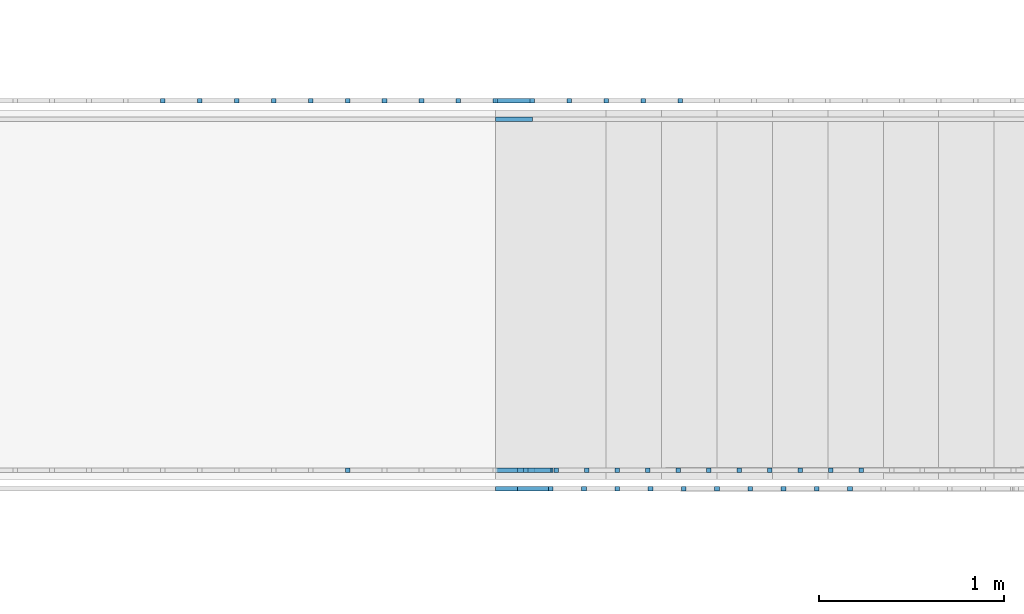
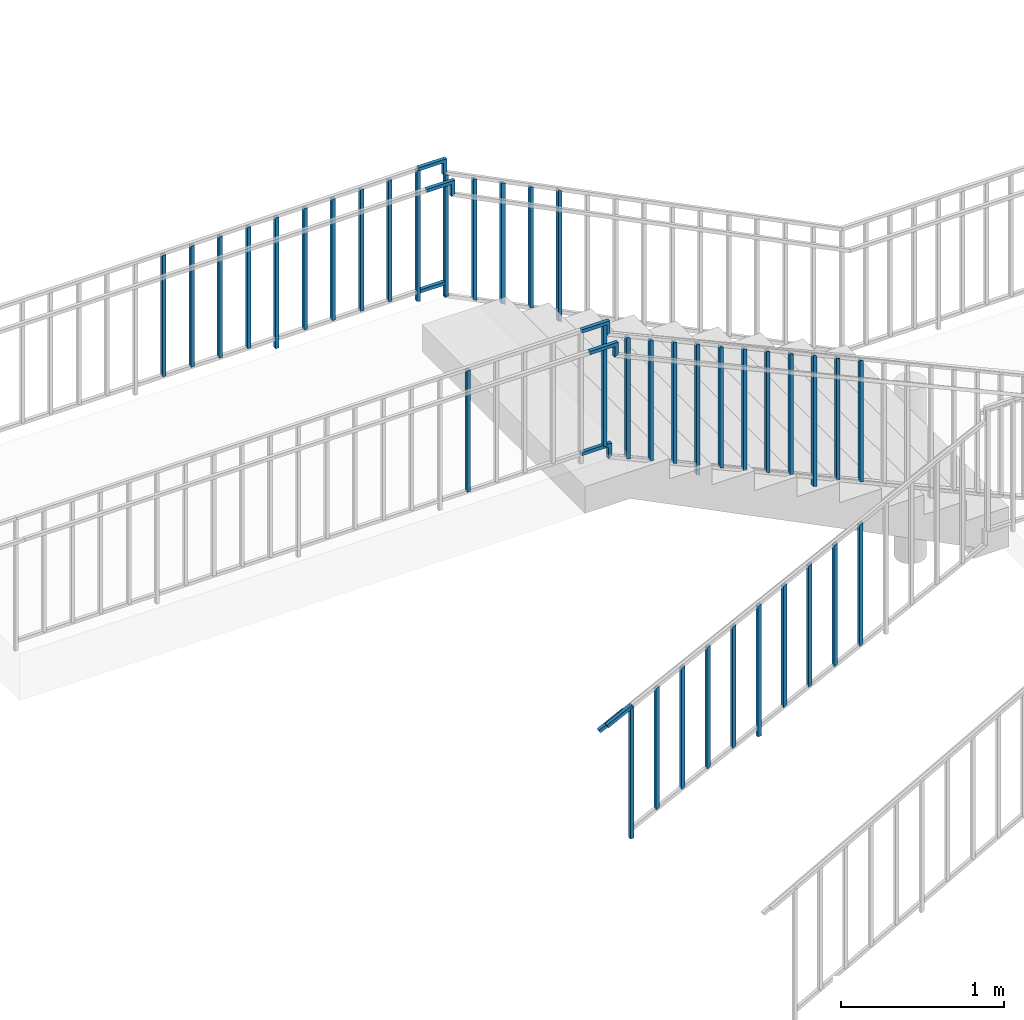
# One storey, part 17 of 19: 46 building element parts, 2 elements without a shape of their own.
"""IFC4 building model written with IfcOpenShell, lengths in millimetres."""

from ifc_helpers import new_model, entity, si_unit, converted_unit, derived_unit, direction, frame, origin_with_axes, place, context, subcontext, project, spatial, triangles, material, element, aggregate, save


model = new_model("IFC4")

# Units and contexts
model_context = context("Model", 3, precision=1e-05, world=origin_with_axes(), true_north=direction((0.0, 1.0)))
body_context = subcontext(model_context, "Body", "Model", "MODEL_VIEW")
ifc_project = project(units=[si_unit("LENGTHUNIT", "METRE", prefix="MILLI"), si_unit("AREAUNIT", "SQUARE_METRE"), si_unit("VOLUMEUNIT", "CUBIC_METRE"), converted_unit("PLANEANGLEUNIT", "DEGREE", entity("IfcLengthMeasure", 0.017453), si_unit("PLANEANGLEUNIT", "RADIAN"), dimensions=[0, 0, 0, 0, 0, 0, 0]), si_unit("SOLIDANGLEUNIT", "STERADIAN"), si_unit("MASSUNIT", "GRAM"), si_unit("TIMEUNIT", "SECOND"), si_unit("THERMODYNAMICTEMPERATUREUNIT", "DEGREE_CELSIUS"), si_unit("LUMINOUSINTENSITYUNIT", "LUMEN"), si_unit("POWERUNIT", "WATT"), derived_unit("THERMALTRANSMITTANCEUNIT", [(si_unit("POWERUNIT", "WATT"), 1), (si_unit("THERMODYNAMICTEMPERATUREUNIT", "KELVIN"), -1), (si_unit("AREAUNIT", "SQUARE_METRE"), -1)])], contexts=[model_context])

# Site, building, storey
site_placement = place(None, origin_with_axes())
site = spatial("IfcSite", under=ifc_project, at=site_placement, Name="Default Site", CompositionType="ELEMENT")
building_placement = place(site_placement, origin_with_axes())
building = spatial("IfcBuilding", under=site, at=building_placement, Name="Default Building", CompositionType="ELEMENT")
storey_placement = place(building_placement, frame((0.0, 0.0, 3000.0), z_axis=(0.0, 0.0, 1.0), x_axis=(1.0, 0.0, 0.0)))
storey = spatial("IfcBuildingStorey", under=building, at=storey_placement, Name="EG - Story", CompositionType="ELEMENT", Elevation=3000.0)

# Railing, building element parts
railing_1_placement = place(storey_placement, origin_with_axes())
railing_1 = element("IfcRailing", 1, at=railing_1_placement, inside=storey, Name="Geländer - 001", PredefinedType="NOTDEFINED")
ifc_material = material(Name="Bekleidung")
building_element_part_1_placement = place(railing_1_placement, frame((84051.391327, -29589.262838, -3000.0), z_axis=(0.0, 0.0, 1.0), x_axis=(1.0, 0.0, 0.0)))
building_element_part_1 = element("IfcBuildingElementPart", 2, at=building_element_part_1_placement, material=ifc_material, Name="Bekleidung", PredefinedType="NOTDEFINED", context=body_context, shape_type="Tessellation", body=[
    triangles([(12.5, -62.499, 150.0), (12.5, -37.499, 150.0), (12.5, -37.499, 1136.25), (12.5, -62.499, 1136.25), (-12.499, -62.499, 150.0), (-12.499, -37.499, 150.0), (-12.499, -37.499, 1123.75), (-12.499, -62.499, 1123.75)], [[1, 2, 3], [1, 3, 4], [1, 5, 6], [1, 6, 2], [2, 6, 7], [2, 7, 3], [4, 3, 7], [4, 7, 8], [5, 1, 4], [5, 4, 8], [6, 5, 8], [6, 8, 7]], closed=False),
])
building_element_part_2_placement = place(railing_1_placement, frame((84051.391327, -29589.262838, -3000.0), z_axis=(0.0, 0.0, 1.0), x_axis=(1.0, 0.0, 0.0)))
building_element_part_2 = element("IfcBuildingElementPart", 3, at=building_element_part_2_placement, material=ifc_material, Name="Bekleidung", PredefinedType="NOTDEFINED", context=body_context, shape_type="Tessellation", body=[
    triangles([(0.0, 62.5, 1050.0), (11.18, 62.5, 1027.639), (-167.704, 62.5, 938.197), (-178.884, 62.5, 960.557), (0.0, 37.5, 1050.0), (11.18, 37.5, 1027.639), (-167.704, 37.5, 938.197), (-178.884, 37.5, 960.557)], [[1, 2, 3], [1, 3, 4], [1, 5, 6], [1, 6, 2], [2, 6, 7], [2, 7, 3], [4, 3, 7], [4, 7, 8], [5, 1, 4], [5, 4, 8], [6, 5, 8], [6, 8, 7]], closed=False),
])
building_element_part_3_placement = place(railing_1_placement, frame((84051.391327, -29589.262838, -3000.0), z_axis=(0.0, 0.0, 1.0), x_axis=(1.0, 0.0, 0.0)))
building_element_part_3 = element("IfcBuildingElementPart", 4, at=building_element_part_3_placement, material=ifc_material, Name="Bekleidung", PredefinedType="NOTDEFINED", context=body_context, shape_type="Tessellation", body=[
    triangles([(0.0, -37.499, 1150.0), (11.18, -37.499, 1127.639), (-167.704, -37.499, 1038.197), (-178.884, -37.499, 1060.557), (0.0, -62.499, 1150.0), (11.18, -62.499, 1127.639), (-167.704, -62.499, 1038.197), (-178.884, -62.499, 1060.557)], [[1, 2, 3], [1, 3, 4], [1, 5, 6], [1, 6, 2], [2, 6, 7], [2, 7, 3], [4, 3, 7], [4, 7, 8], [5, 1, 4], [5, 4, 8], [6, 5, 8], [6, 8, 7]], closed=False),
])
building_element_part_4_placement = place(railing_1_placement, frame((84051.391327, -29589.262838, -3000.0), z_axis=(0.0, 0.0, 1.0), x_axis=(1.0, 0.0, 0.0)))
building_element_part_4 = element("IfcBuildingElementPart", 5, at=building_element_part_4_placement, material=ifc_material, Name="Bekleidung", PredefinedType="NOTDEFINED", context=body_context, shape_type="Tessellation", body=[
    triangles([(-124.999, -37.499, 3875.0), (-299.999, -37.499, 3875.0), (-299.999, -37.499, 3900.0), (-99.999, -37.499, 3900.0), (-99.999, -37.499, 3809.091), (-124.999, -37.499, 3792.993), (-99.999, -62.499, 3809.091), (-124.999, -62.499, 3792.993), (-124.999, -62.499, 3875.0), (-299.999, -62.499, 3875.0), (-299.999, -62.499, 3900.0), (-99.999, -62.499, 3900.0)], [[1, 2, 3], [1, 3, 4], [1, 4, 5], [1, 5, 6], [5, 7, 8], [5, 8, 6], [6, 8, 9], [6, 9, 1], [1, 9, 10], [1, 10, 2], [3, 2, 10], [3, 10, 11], [12, 4, 3], [12, 3, 11], [7, 5, 4], [7, 4, 12], [8, 7, 9], [9, 7, 12], [9, 12, 10], [10, 12, 11]], closed=False),
])
building_element_part_5_placement = place(railing_1_placement, frame((84051.391327, -29589.262838, -3000.0), z_axis=(0.0, 0.0, 1.0), x_axis=(1.0, 0.0, 0.0)))
building_element_part_5 = element("IfcBuildingElementPart", 6, at=building_element_part_5_placement, material=ifc_material, Name="Bekleidung", PredefinedType="NOTDEFINED", context=body_context, shape_type="Tessellation", body=[
    triangles([(-112.499, 62.5, 3057.5), (-299.999, 62.5, 3057.5), (-299.999, 62.5, 3082.5), (-87.499, 62.5, 3082.5), (-87.499, 62.5, 2987.14), (-112.499, 62.5, 2971.042), (-87.499, 37.5, 2987.14), (-112.499, 37.5, 2971.042), (-112.499, 37.5, 3057.5), (-299.999, 37.5, 3057.5), (-299.999, 37.5, 3082.5), (-87.499, 37.5, 3082.5)], [[1, 2, 3], [1, 3, 4], [1, 4, 5], [1, 5, 6], [5, 7, 8], [5, 8, 6], [6, 8, 9], [6, 9, 1], [1, 9, 10], [1, 10, 2], [3, 2, 10], [3, 10, 11], [12, 4, 3], [12, 3, 11], [7, 5, 4], [7, 4, 12], [8, 7, 9], [9, 7, 12], [9, 12, 10], [10, 12, 11]], closed=False),
])
building_element_part_6_placement = place(railing_1_placement, frame((84051.391327, -29589.262838, -3000.0), z_axis=(0.0, 0.0, 1.0), x_axis=(1.0, 0.0, 0.0)))
building_element_part_6 = element("IfcBuildingElementPart", 7, at=building_element_part_6_placement, material=ifc_material, Name="Bekleidung", PredefinedType="NOTDEFINED", context=body_context, shape_type="Tessellation", body=[
    triangles([(-124.999, 62.5, 3975.0), (-299.999, 62.5, 3975.0), (-299.999, 62.5, 4000.0), (-99.999, 62.5, 4000.0), (-99.999, 62.5, 3909.091), (-124.999, 62.5, 3892.993), (-99.999, 37.5, 3909.091), (-124.999, 37.5, 3892.993), (-124.999, 37.5, 3975.0), (-299.999, 37.5, 3975.0), (-299.999, 37.5, 4000.0), (-99.999, 37.5, 4000.0)], [[1, 2, 3], [1, 3, 4], [1, 4, 5], [1, 5, 6], [5, 7, 8], [5, 8, 6], [6, 8, 9], [6, 9, 1], [1, 9, 10], [1, 10, 2], [3, 2, 10], [3, 10, 11], [12, 4, 3], [12, 3, 11], [7, 5, 4], [7, 4, 12], [8, 7, 9], [9, 7, 12], [9, 12, 10], [10, 12, 11]], closed=False),
])
building_element_part_7_placement = place(railing_1_placement, frame((84051.391327, -29589.262838, -3000.0), z_axis=(0.0, 0.0, 1.0), x_axis=(1.0, 0.0, 0.0)))
building_element_part_7 = element("IfcBuildingElementPart", 8, at=building_element_part_7_placement, material=ifc_material, Name="Bekleidung", PredefinedType="NOTDEFINED", context=body_context, shape_type="Tessellation", body=[
    triangles([(192.5, -62.499, 316.25), (192.5, -37.499, 316.25), (192.5, -37.499, 1223.75), (192.5, -62.499, 1223.75), (167.5, -62.499, 303.75), (167.5, -37.499, 303.75), (167.5, -37.499, 1211.25), (167.5, -62.499, 1211.25)], [[1, 2, 3], [1, 3, 4], [1, 5, 6], [1, 6, 2], [2, 6, 7], [2, 7, 3], [4, 3, 7], [4, 7, 8], [5, 1, 4], [5, 4, 8], [6, 5, 8], [6, 8, 7]], closed=False),
])
building_element_part_8_placement = place(railing_1_placement, frame((84051.391327, -29589.262838, -3000.0), z_axis=(0.0, 0.0, 1.0), x_axis=(1.0, 0.0, 0.0)))
building_element_part_8 = element("IfcBuildingElementPart", 9, at=building_element_part_8_placement, material=ifc_material, Name="Bekleidung", PredefinedType="NOTDEFINED", context=body_context, shape_type="Tessellation", body=[
    triangles([(372.5, -62.499, 406.25), (372.5, -37.499, 406.25), (372.5, -37.499, 1313.75), (372.5, -62.499, 1313.75), (347.5, -62.499, 393.75), (347.5, -37.499, 393.75), (347.5, -37.499, 1301.25), (347.5, -62.499, 1301.25)], [[1, 2, 3], [1, 3, 4], [1, 5, 6], [1, 6, 2], [2, 6, 7], [2, 7, 3], [4, 3, 7], [4, 7, 8], [5, 1, 4], [5, 4, 8], [6, 5, 8], [6, 8, 7]], closed=False),
])
building_element_part_9_placement = place(railing_1_placement, frame((84051.391327, -29589.262838, -3000.0), z_axis=(0.0, 0.0, 1.0), x_axis=(1.0, 0.0, 0.0)))
building_element_part_9 = element("IfcBuildingElementPart", 10, at=building_element_part_9_placement, material=ifc_material, Name="Bekleidung", PredefinedType="NOTDEFINED", context=body_context, shape_type="Tessellation", body=[
    triangles([(552.5, -62.499, 496.25), (552.5, -37.499, 496.25), (552.5, -37.499, 1403.75), (552.5, -62.499, 1403.75), (527.5, -62.499, 483.75), (527.5, -37.499, 483.75), (527.5, -37.499, 1391.25), (527.5, -62.499, 1391.25)], [[1, 2, 3], [1, 3, 4], [1, 5, 6], [1, 6, 2], [2, 6, 7], [2, 7, 3], [4, 3, 7], [4, 7, 8], [5, 1, 4], [5, 4, 8], [6, 5, 8], [6, 8, 7]], closed=False),
])
building_element_part_10_placement = place(railing_1_placement, frame((84051.391327, -29589.262838, -3000.0), z_axis=(0.0, 0.0, 1.0), x_axis=(1.0, 0.0, 0.0)))
building_element_part_10 = element("IfcBuildingElementPart", 11, at=building_element_part_10_placement, material=ifc_material, Name="Bekleidung", PredefinedType="NOTDEFINED", context=body_context, shape_type="Tessellation", body=[
    triangles([(732.5, -62.499, 586.25), (732.5, -37.499, 586.25), (732.5, -37.499, 1493.75), (732.5, -62.499, 1493.75), (707.5, -62.499, 573.75), (707.5, -37.499, 573.75), (707.5, -37.499, 1481.25), (707.5, -62.499, 1481.25)], [[1, 2, 3], [1, 3, 4], [1, 5, 6], [1, 6, 2], [2, 6, 7], [2, 7, 3], [4, 3, 7], [4, 7, 8], [5, 1, 4], [5, 4, 8], [6, 5, 8], [6, 8, 7]], closed=False),
])
building_element_part_11_placement = place(railing_1_placement, frame((84051.391327, -29589.262838, -3000.0), z_axis=(0.0, 0.0, 1.0), x_axis=(1.0, 0.0, 0.0)))
building_element_part_11 = element("IfcBuildingElementPart", 12, at=building_element_part_11_placement, material=ifc_material, Name="Bekleidung", PredefinedType="NOTDEFINED", context=body_context, shape_type="Tessellation", body=[
    triangles([(912.5, -62.499, 600.0), (912.5, -37.499, 600.0), (912.5, -37.499, 1586.25), (912.5, -62.499, 1586.25), (887.5, -62.499, 600.0), (887.5, -37.499, 600.0), (887.5, -37.499, 1573.75), (887.5, -62.499, 1573.75)], [[1, 2, 3], [1, 3, 4], [1, 5, 6], [1, 6, 2], [2, 6, 7], [2, 7, 3], [4, 3, 7], [4, 7, 8], [5, 1, 4], [5, 4, 8], [6, 5, 8], [6, 8, 7]], closed=False),
])
building_element_part_12_placement = place(railing_1_placement, frame((84051.391327, -29589.262838, -3000.0), z_axis=(0.0, 0.0, 1.0), x_axis=(1.0, 0.0, 0.0)))
building_element_part_12 = element("IfcBuildingElementPart", 13, at=building_element_part_12_placement, material=ifc_material, Name="Bekleidung", PredefinedType="NOTDEFINED", context=body_context, shape_type="Tessellation", body=[
    triangles([(1092.5, -62.499, 766.25), (1092.5, -37.499, 766.25), (1092.5, -37.499, 1673.75), (1092.5, -62.499, 1673.75), (1067.5, -62.499, 753.75), (1067.5, -37.499, 753.75), (1067.5, -37.499, 1661.25), (1067.5, -62.499, 1661.25)], [[1, 2, 3], [1, 3, 4], [1, 5, 6], [1, 6, 2], [2, 6, 7], [2, 7, 3], [4, 3, 7], [4, 7, 8], [5, 1, 4], [5, 4, 8], [6, 5, 8], [6, 8, 7]], closed=False),
])
building_element_part_13_placement = place(railing_1_placement, frame((84051.391327, -29589.262838, -3000.0), z_axis=(0.0, 0.0, 1.0), x_axis=(1.0, 0.0, 0.0)))
building_element_part_13 = element("IfcBuildingElementPart", 14, at=building_element_part_13_placement, material=ifc_material, Name="Bekleidung", PredefinedType="NOTDEFINED", context=body_context, shape_type="Tessellation", body=[
    triangles([(1272.5, -62.499, 856.25), (1272.5, -37.499, 856.25), (1272.5, -37.499, 1763.75), (1272.5, -62.499, 1763.75), (1247.5, -62.499, 843.75), (1247.5, -37.499, 843.75), (1247.5, -37.499, 1751.25), (1247.5, -62.499, 1751.25)], [[1, 2, 3], [1, 3, 4], [1, 5, 6], [1, 6, 2], [2, 6, 7], [2, 7, 3], [4, 3, 7], [4, 7, 8], [5, 1, 4], [5, 4, 8], [6, 5, 8], [6, 8, 7]], closed=False),
])
building_element_part_14_placement = place(railing_1_placement, frame((84051.391327, -29589.262838, -3000.0), z_axis=(0.0, 0.0, 1.0), x_axis=(1.0, 0.0, 0.0)))
building_element_part_14 = element("IfcBuildingElementPart", 15, at=building_element_part_14_placement, material=ifc_material, Name="Bekleidung", PredefinedType="NOTDEFINED", context=body_context, shape_type="Tessellation", body=[
    triangles([(1452.5, -62.499, 946.25), (1452.5, -37.499, 946.25), (1452.5, -37.499, 1853.75), (1452.5, -62.499, 1853.75), (1427.5, -62.499, 933.75), (1427.5, -37.499, 933.75), (1427.5, -37.499, 1841.25), (1427.5, -62.499, 1841.25)], [[1, 2, 3], [1, 3, 4], [1, 5, 6], [1, 6, 2], [2, 6, 7], [2, 7, 3], [4, 3, 7], [4, 7, 8], [5, 1, 4], [5, 4, 8], [6, 5, 8], [6, 8, 7]], closed=False),
])
building_element_part_15_placement = place(railing_1_placement, frame((84051.391327, -29589.262838, -3000.0), z_axis=(0.0, 0.0, 1.0), x_axis=(1.0, 0.0, 0.0)))
building_element_part_15 = element("IfcBuildingElementPart", 16, at=building_element_part_15_placement, material=ifc_material, Name="Bekleidung", PredefinedType="NOTDEFINED", context=body_context, shape_type="Tessellation", body=[
    triangles([(1632.5, -62.499, 1036.25), (1632.5, -37.499, 1036.25), (1632.5, -37.499, 1943.75), (1632.5, -62.499, 1943.75), (1607.5, -62.499, 1023.75), (1607.5, -37.499, 1023.75), (1607.5, -37.499, 1931.25), (1607.5, -62.499, 1931.25)], [[1, 2, 3], [1, 3, 4], [1, 5, 6], [1, 6, 2], [2, 6, 7], [2, 7, 3], [4, 3, 7], [4, 7, 8], [5, 1, 4], [5, 4, 8], [6, 5, 8], [6, 8, 7]], closed=False),
])
building_element_part_16_placement = place(railing_1_placement, frame((84051.391327, -29589.262838, -3000.0), z_axis=(0.0, 0.0, 1.0), x_axis=(1.0, 0.0, 0.0)))
building_element_part_16 = element("IfcBuildingElementPart", 17, at=building_element_part_16_placement, material=ifc_material, Name="Bekleidung", PredefinedType="NOTDEFINED", context=body_context, shape_type="Tessellation", body=[
    triangles([(1667.5, 62.5, 2175.682), (1667.5, 37.5, 2175.682), (1667.5, 37.5, 3083.182), (1667.5, 62.5, 3083.182), (1692.5, 62.5, 2164.318), (1692.5, 37.5, 2164.318), (1692.5, 37.5, 3071.818), (1692.5, 62.5, 3071.818)], [[1, 2, 3], [1, 3, 4], [1, 5, 6], [1, 6, 2], [2, 6, 7], [2, 7, 3], [4, 3, 7], [4, 7, 8], [5, 1, 4], [5, 4, 8], [6, 5, 8], [6, 8, 7]], closed=False),
])
building_element_part_17_placement = place(railing_1_placement, frame((84051.391327, -29589.262838, -3000.0), z_axis=(0.0, 0.0, 1.0), x_axis=(1.0, 0.0, 0.0)))
building_element_part_17 = element("IfcBuildingElementPart", 18, at=building_element_part_17_placement, material=ifc_material, Name="Bekleidung", PredefinedType="NOTDEFINED", context=body_context, shape_type="Tessellation", body=[
    triangles([(1502.5, 62.5, 2250.682), (1502.5, 37.5, 2250.682), (1502.5, 37.5, 3158.182), (1502.5, 62.5, 3158.182), (1527.5, 62.5, 2239.318), (1527.5, 37.5, 2239.318), (1527.5, 37.5, 3146.818), (1527.5, 62.5, 3146.818)], [[1, 2, 3], [1, 3, 4], [1, 5, 6], [1, 6, 2], [2, 6, 7], [2, 7, 3], [4, 3, 7], [4, 7, 8], [5, 1, 4], [5, 4, 8], [6, 5, 8], [6, 8, 7]], closed=False),
])
building_element_part_18_placement = place(railing_1_placement, frame((84051.391327, -29589.262838, -3000.0), z_axis=(0.0, 0.0, 1.0), x_axis=(1.0, 0.0, 0.0)))
building_element_part_18 = element("IfcBuildingElementPart", 19, at=building_element_part_18_placement, material=ifc_material, Name="Bekleidung", PredefinedType="NOTDEFINED", context=body_context, shape_type="Tessellation", body=[
    triangles([(1337.5, 62.5, 2255.682), (1337.5, 37.5, 2255.682), (1337.5, 37.5, 3235.682), (1337.5, 62.5, 3235.682), (1362.5, 62.5, 2244.318), (1362.5, 37.5, 2244.318), (1362.5, 37.5, 3224.318), (1362.5, 62.5, 3224.318)], [[1, 2, 3], [1, 3, 4], [1, 5, 6], [1, 6, 2], [2, 6, 7], [2, 7, 3], [4, 3, 7], [4, 7, 8], [5, 1, 4], [5, 4, 8], [6, 5, 8], [6, 8, 7]], closed=False),
])
building_element_part_19_placement = place(railing_1_placement, frame((84051.391327, -29589.262838, -3000.0), z_axis=(0.0, 0.0, 1.0), x_axis=(1.0, 0.0, 0.0)))
building_element_part_19 = element("IfcBuildingElementPart", 20, at=building_element_part_19_placement, material=ifc_material, Name="Bekleidung", PredefinedType="NOTDEFINED", context=body_context, shape_type="Tessellation", body=[
    triangles([(1172.5, 62.5, 2400.682), (1172.5, 37.5, 2400.682), (1172.5, 37.5, 3308.182), (1172.5, 62.5, 3308.182), (1197.5, 62.5, 2389.318), (1197.5, 37.5, 2389.318), (1197.5, 37.5, 3296.818), (1197.5, 62.5, 3296.818)], [[1, 2, 3], [1, 3, 4], [1, 5, 6], [1, 6, 2], [2, 6, 7], [2, 7, 3], [4, 3, 7], [4, 7, 8], [5, 1, 4], [5, 4, 8], [6, 5, 8], [6, 8, 7]], closed=False),
])
building_element_part_20_placement = place(railing_1_placement, frame((84051.391327, -29589.262838, -3000.0), z_axis=(0.0, 0.0, 1.0), x_axis=(1.0, 0.0, 0.0)))
building_element_part_20 = element("IfcBuildingElementPart", 21, at=building_element_part_20_placement, material=ifc_material, Name="Bekleidung", PredefinedType="NOTDEFINED", context=body_context, shape_type="Tessellation", body=[
    triangles([(1007.5, 62.5, 2475.682), (1007.5, 37.5, 2475.682), (1007.5, 37.5, 3383.182), (1007.5, 62.5, 3383.182), (1032.5, 62.5, 2464.318), (1032.5, 37.5, 2464.318), (1032.5, 37.5, 3371.818), (1032.5, 62.5, 3371.818)], [[1, 2, 3], [1, 3, 4], [1, 5, 6], [1, 6, 2], [2, 6, 7], [2, 7, 3], [4, 3, 7], [4, 7, 8], [5, 1, 4], [5, 4, 8], [6, 5, 8], [6, 8, 7]], closed=False),
])
building_element_part_21_placement = place(railing_1_placement, frame((84051.391327, -29589.262838, -3000.0), z_axis=(0.0, 0.0, 1.0), x_axis=(1.0, 0.0, 0.0)))
building_element_part_21 = element("IfcBuildingElementPart", 22, at=building_element_part_21_placement, material=ifc_material, Name="Bekleidung", PredefinedType="NOTDEFINED", context=body_context, shape_type="Tessellation", body=[
    triangles([(842.5, 62.5, 2550.682), (842.5, 37.5, 2550.682), (842.5, 37.5, 3458.182), (842.5, 62.5, 3458.182), (867.5, 62.5, 2539.318), (867.5, 37.5, 2539.318), (867.5, 37.5, 3446.818), (867.5, 62.5, 3446.818)], [[1, 2, 3], [1, 3, 4], [1, 5, 6], [1, 6, 2], [2, 6, 7], [2, 7, 3], [4, 3, 7], [4, 7, 8], [5, 1, 4], [5, 4, 8], [6, 5, 8], [6, 8, 7]], closed=False),
])
building_element_part_22_placement = place(railing_1_placement, frame((84051.391327, -29589.262838, -3000.0), z_axis=(0.0, 0.0, 1.0), x_axis=(1.0, 0.0, 0.0)))
building_element_part_22 = element("IfcBuildingElementPart", 23, at=building_element_part_22_placement, material=ifc_material, Name="Bekleidung", PredefinedType="NOTDEFINED", context=body_context, shape_type="Tessellation", body=[
    triangles([(677.5, 62.5, 2625.682), (677.5, 37.5, 2625.682), (677.5, 37.5, 3533.182), (677.5, 62.5, 3533.182), (702.5, 62.5, 2614.318), (702.5, 37.5, 2614.318), (702.5, 37.5, 3521.818), (702.5, 62.5, 3521.818)], [[1, 2, 3], [1, 3, 4], [1, 5, 6], [1, 6, 2], [2, 6, 7], [2, 7, 3], [4, 3, 7], [4, 7, 8], [5, 1, 4], [5, 4, 8], [6, 5, 8], [6, 8, 7]], closed=False),
])
building_element_part_23_placement = place(railing_1_placement, frame((84051.391327, -29589.262838, -3000.0), z_axis=(0.0, 0.0, 1.0), x_axis=(1.0, 0.0, 0.0)))
building_element_part_23 = element("IfcBuildingElementPart", 24, at=building_element_part_23_placement, material=ifc_material, Name="Bekleidung", PredefinedType="NOTDEFINED", context=body_context, shape_type="Tessellation", body=[
    triangles([(512.5, 62.5, 2630.682), (512.5, 37.5, 2630.682), (512.5, 37.5, 3610.682), (512.5, 62.5, 3610.682), (537.5, 62.5, 2619.318), (537.5, 37.5, 2619.318), (537.5, 37.5, 3599.318), (537.5, 62.5, 3599.318)], [[1, 2, 3], [1, 3, 4], [1, 5, 6], [1, 6, 2], [2, 6, 7], [2, 7, 3], [4, 3, 7], [4, 7, 8], [5, 1, 4], [5, 4, 8], [6, 5, 8], [6, 8, 7]], closed=False),
])
building_element_part_24_placement = place(railing_1_placement, frame((84051.391327, -29589.262838, -3000.0), z_axis=(0.0, 0.0, 1.0), x_axis=(1.0, 0.0, 0.0)))
building_element_part_24 = element("IfcBuildingElementPart", 25, at=building_element_part_24_placement, material=ifc_material, Name="Bekleidung", PredefinedType="NOTDEFINED", context=body_context, shape_type="Tessellation", body=[
    triangles([(347.5, 62.5, 2775.682), (347.5, 37.5, 2775.682), (347.5, 37.5, 3683.182), (347.5, 62.5, 3683.182), (372.5, 62.5, 2764.318), (372.5, 37.5, 2764.318), (372.5, 37.5, 3671.818), (372.5, 62.5, 3671.818)], [[1, 2, 3], [1, 3, 4], [1, 5, 6], [1, 6, 2], [2, 6, 7], [2, 7, 3], [4, 3, 7], [4, 7, 8], [5, 1, 4], [5, 4, 8], [6, 5, 8], [6, 8, 7]], closed=False),
])
building_element_part_25_placement = place(railing_1_placement, frame((84051.391327, -29589.262838, -3000.0), z_axis=(0.0, 0.0, 1.0), x_axis=(1.0, 0.0, 0.0)))
building_element_part_25 = element("IfcBuildingElementPart", 26, at=building_element_part_25_placement, material=ifc_material, Name="Bekleidung", PredefinedType="NOTDEFINED", context=body_context, shape_type="Tessellation", body=[
    triangles([(182.5, 62.5, 2850.682), (182.5, 37.5, 2850.682), (182.5, 37.5, 3758.182), (182.5, 62.5, 3758.182), (207.5, 62.5, 2839.318), (207.5, 37.5, 2839.318), (207.5, 37.5, 3746.818), (207.5, 62.5, 3746.818)], [[1, 2, 3], [1, 3, 4], [1, 5, 6], [1, 6, 2], [2, 6, 7], [2, 7, 3], [4, 3, 7], [4, 7, 8], [5, 1, 4], [5, 4, 8], [6, 5, 8], [6, 8, 7]], closed=False),
])
building_element_part_26_placement = place(railing_1_placement, frame((84051.391327, -29589.262838, -3000.0), z_axis=(0.0, 0.0, 1.0), x_axis=(1.0, 0.0, 0.0)))
building_element_part_26 = element("IfcBuildingElementPart", 27, at=building_element_part_26_placement, material=ifc_material, Name="Bekleidung", PredefinedType="NOTDEFINED", context=body_context, shape_type="Tessellation", body=[
    triangles([(17.5, 62.5, 2925.682), (17.5, 37.5, 2925.682), (17.5, 37.5, 3833.182), (17.5, 62.5, 3833.182), (42.5, 62.5, 2914.318), (42.5, 37.5, 2914.318), (42.5, 37.5, 3821.818), (42.5, 62.5, 3821.818)], [[1, 2, 3], [1, 3, 4], [1, 5, 6], [1, 6, 2], [2, 6, 7], [2, 7, 3], [4, 3, 7], [4, 7, 8], [5, 1, 4], [5, 4, 8], [6, 5, 8], [6, 8, 7]], closed=False),
])
building_element_part_27_placement = place(railing_1_placement, frame((84051.391327, -29589.262838, -3000.0), z_axis=(0.0, 0.0, 1.0), x_axis=(1.0, 0.0, 0.0)))
building_element_part_27 = element("IfcBuildingElementPart", 28, at=building_element_part_27_placement, material=ifc_material, Name="Bekleidung", PredefinedType="NOTDEFINED", context=body_context, shape_type="Tessellation", body=[
    triangles([(-147.499, 62.5, 3070.0), (-147.499, 37.5, 3070.0), (-147.499, 37.5, 3977.5), (-147.499, 62.5, 3977.5), (-122.499, 62.5, 3070.0), (-122.499, 37.5, 3070.0), (-122.499, 37.5, 3977.5), (-122.499, 62.5, 3977.5)], [[1, 2, 3], [1, 3, 4], [1, 5, 6], [1, 6, 2], [2, 6, 7], [2, 7, 3], [4, 3, 7], [4, 7, 8], [5, 1, 4], [5, 4, 8], [6, 5, 8], [6, 8, 7]], closed=False),
])
building_element_part_28_placement = place(railing_1_placement, frame((84051.391327, -29589.262838, -3000.0), z_axis=(0.0, 0.0, 1.0), x_axis=(1.0, 0.0, 0.0)))
building_element_part_28 = element("IfcBuildingElementPart", 29, at=building_element_part_28_placement, material=ifc_material, Name="Bekleidung", PredefinedType="NOTDEFINED", context=body_context, shape_type="Tessellation", body=[
    triangles([(-1112.499, 62.5, 3070.0), (-1112.499, 37.5, 3070.0), (-1112.499, 37.5, 3977.5), (-1112.499, 62.5, 3977.5), (-1087.499, 62.5, 3070.0), (-1087.499, 37.5, 3070.0), (-1087.499, 37.5, 3977.5), (-1087.499, 62.5, 3977.5)], [[1, 2, 3], [1, 3, 4], [1, 5, 6], [1, 6, 2], [2, 6, 7], [2, 7, 3], [4, 3, 7], [4, 7, 8], [5, 1, 4], [5, 4, 8], [6, 5, 8], [6, 8, 7]], closed=False),
])
aggregate(railing_1, [building_element_part_1, building_element_part_2, building_element_part_3, building_element_part_4, building_element_part_5, building_element_part_6, building_element_part_7, building_element_part_8, building_element_part_9, building_element_part_10, building_element_part_11, building_element_part_12, building_element_part_13, building_element_part_14, building_element_part_15, building_element_part_16, building_element_part_17, building_element_part_18, building_element_part_19, building_element_part_20, building_element_part_21, building_element_part_22, building_element_part_23, building_element_part_24, building_element_part_25, building_element_part_26, building_element_part_27, building_element_part_28])

railing_2_placement = place(storey_placement, origin_with_axes())
railing_2 = element("IfcRailing", 30, at=railing_2_placement, inside=storey, Name="Geländer - 001", PredefinedType="NOTDEFINED")
building_element_part_29_placement = place(railing_2_placement, frame((84051.391327, -31589.262838, -3000.0), z_axis=(0.0, 0.0, 1.0), x_axis=(1.0, 0.0, 0.0)))
building_element_part_29 = element("IfcBuildingElementPart", 31, at=building_element_part_29_placement, material=ifc_material, Name="Bekleidung", PredefinedType="NOTDEFINED", context=body_context, shape_type="Tessellation", body=[
    triangles([(-312.499, 4062.5, 3002.951), (-312.499, 4037.5, 3002.951), (-312.499, 4037.5, 3982.951), (-312.499, 4062.5, 3982.951), (-287.499, 4062.5, 2997.049), (-287.499, 4037.5, 2997.049), (-287.499, 4037.5, 3977.049), (-287.499, 4062.5, 3977.049)], [[1, 2, 3], [1, 3, 4], [1, 5, 6], [1, 6, 2], [2, 6, 7], [2, 7, 3], [4, 3, 7], [4, 7, 8], [5, 1, 4], [5, 4, 8], [6, 5, 8], [6, 8, 7]], closed=False),
])
building_element_part_30_placement = place(railing_2_placement, frame((84051.391327, -31589.262838, -3000.0), z_axis=(0.0, 0.0, 1.0), x_axis=(1.0, 0.0, 0.0)))
building_element_part_30 = element("IfcBuildingElementPart", 32, at=building_element_part_30_placement, material=ifc_material, Name="Bekleidung", PredefinedType="NOTDEFINED", context=body_context, shape_type="Tessellation", body=[
    triangles([(-124.999, 3962.5, 3875.0), (-299.999, 3962.5, 3875.0), (-299.999, 3962.5, 3900.0), (-99.999, 3962.5, 3900.0), (-99.999, 3962.5, 3800.0), (-124.999, 3962.5, 3784.549), (-99.999, 3937.5, 3800.0), (-124.999, 3937.5, 3784.549), (-124.999, 3937.5, 3875.0), (-299.999, 3937.5, 3875.0), (-299.999, 3937.5, 3900.0), (-99.999, 3937.5, 3900.0)], [[1, 2, 3], [1, 3, 4], [1, 4, 5], [1, 5, 6], [5, 7, 8], [5, 8, 6], [6, 8, 9], [6, 9, 1], [1, 9, 10], [1, 10, 2], [3, 2, 10], [3, 10, 11], [12, 4, 3], [12, 3, 11], [7, 5, 4], [7, 4, 12], [8, 7, 9], [9, 7, 12], [9, 12, 10], [10, 12, 11]], closed=False),
])
building_element_part_31_placement = place(railing_2_placement, frame((84051.391327, -31589.262838, -3000.0), z_axis=(0.0, 0.0, 1.0), x_axis=(1.0, 0.0, 0.0)))
building_element_part_31 = element("IfcBuildingElementPart", 33, at=building_element_part_31_placement, material=ifc_material, Name="Bekleidung", PredefinedType="NOTDEFINED", context=body_context, shape_type="Tessellation", body=[
    triangles([(-112.499, 4062.5, 3057.5), (-299.999, 4062.5, 3057.5), (-299.999, 4062.5, 3082.5), (-87.499, 4062.5, 3082.5), (-87.499, 4062.5, 2977.725), (-112.499, 4062.5, 2962.275), (-87.499, 4037.5, 2977.725), (-112.499, 4037.5, 2962.275), (-112.499, 4037.5, 3057.5), (-299.999, 4037.5, 3057.5), (-299.999, 4037.5, 3082.5), (-87.499, 4037.5, 3082.5)], [[1, 2, 3], [1, 3, 4], [1, 4, 5], [1, 5, 6], [5, 7, 8], [5, 8, 6], [6, 8, 9], [6, 9, 1], [1, 9, 10], [1, 10, 2], [3, 2, 10], [3, 10, 11], [12, 4, 3], [12, 3, 11], [7, 5, 4], [7, 4, 12], [8, 7, 9], [9, 7, 12], [9, 12, 10], [10, 12, 11]], closed=False),
])
building_element_part_32_placement = place(railing_2_placement, frame((84051.391327, -31589.262838, -3000.0), z_axis=(0.0, 0.0, 1.0), x_axis=(1.0, 0.0, 0.0)))
building_element_part_32 = element("IfcBuildingElementPart", 34, at=building_element_part_32_placement, material=ifc_material, Name="Bekleidung", PredefinedType="NOTDEFINED", context=body_context, shape_type="Tessellation", body=[
    triangles([(-124.999, 4062.5, 3975.0), (-299.999, 4062.5, 3975.0), (-299.999, 4062.5, 4000.0), (-99.999, 4062.5, 4000.0), (-99.999, 4062.5, 3900.0), (-124.999, 4062.5, 3884.549), (-99.999, 4037.5, 3900.0), (-124.999, 4037.5, 3884.549), (-124.999, 4037.5, 3975.0), (-299.999, 4037.5, 3975.0), (-299.999, 4037.5, 4000.0), (-99.999, 4037.5, 4000.0)], [[1, 2, 3], [1, 3, 4], [1, 4, 5], [1, 5, 6], [5, 7, 8], [5, 8, 6], [6, 8, 9], [6, 9, 1], [1, 9, 10], [1, 10, 2], [3, 2, 10], [3, 10, 11], [12, 4, 3], [12, 3, 11], [7, 5, 4], [7, 4, 12], [8, 7, 9], [9, 7, 12], [9, 12, 10], [10, 12, 11]], closed=False),
])
building_element_part_33_placement = place(railing_2_placement, frame((84051.391327, -31589.262838, -3000.0), z_axis=(0.0, 0.0, 1.0), x_axis=(1.0, 0.0, 0.0)))
building_element_part_33 = element("IfcBuildingElementPart", 35, at=building_element_part_33_placement, material=ifc_material, Name="Bekleidung", PredefinedType="NOTDEFINED", context=body_context, shape_type="Tessellation", body=[
    triangles([(687.5, 4062.5, 2506.25), (687.5, 4037.5, 2506.25), (687.5, 4037.5, 3486.25), (687.5, 4062.5, 3486.25), (712.5, 4062.5, 2493.75), (712.5, 4037.5, 2493.75), (712.5, 4037.5, 3473.75), (712.5, 4062.5, 3473.75)], [[1, 2, 3], [1, 3, 4], [1, 5, 6], [1, 6, 2], [2, 6, 7], [2, 7, 3], [4, 3, 7], [4, 7, 8], [5, 1, 4], [5, 4, 8], [6, 5, 8], [6, 8, 7]], closed=False),
])
building_element_part_34_placement = place(railing_2_placement, frame((84051.391327, -31589.262838, -3000.0), z_axis=(0.0, 0.0, 1.0), x_axis=(1.0, 0.0, 0.0)))
building_element_part_34 = element("IfcBuildingElementPart", 36, at=building_element_part_34_placement, material=ifc_material, Name="Bekleidung", PredefinedType="NOTDEFINED", context=body_context, shape_type="Tessellation", body=[
    triangles([(487.5, 4062.5, 2676.25), (487.5, 4037.5, 2676.25), (487.5, 4037.5, 3583.75), (487.5, 4062.5, 3583.75), (512.5, 4062.5, 2663.75), (512.5, 4037.5, 2663.75), (512.5, 4037.5, 3571.25), (512.5, 4062.5, 3571.25)], [[1, 2, 3], [1, 3, 4], [1, 5, 6], [1, 6, 2], [2, 6, 7], [2, 7, 3], [4, 3, 7], [4, 7, 8], [5, 1, 4], [5, 4, 8], [6, 5, 8], [6, 8, 7]], closed=False),
])
building_element_part_35_placement = place(railing_2_placement, frame((84051.391327, -31589.262838, -3000.0), z_axis=(0.0, 0.0, 1.0), x_axis=(1.0, 0.0, 0.0)))
building_element_part_35 = element("IfcBuildingElementPart", 37, at=building_element_part_35_placement, material=ifc_material, Name="Bekleidung", PredefinedType="NOTDEFINED", context=body_context, shape_type="Tessellation", body=[
    triangles([(287.5, 4062.5, 2776.25), (287.5, 4037.5, 2776.25), (287.5, 4037.5, 3683.75), (287.5, 4062.5, 3683.75), (312.5, 4062.5, 2763.75), (312.5, 4037.5, 2763.75), (312.5, 4037.5, 3671.25), (312.5, 4062.5, 3671.25)], [[1, 2, 3], [1, 3, 4], [1, 5, 6], [1, 6, 2], [2, 6, 7], [2, 7, 3], [4, 3, 7], [4, 7, 8], [5, 1, 4], [5, 4, 8], [6, 5, 8], [6, 8, 7]], closed=False),
])
building_element_part_36_placement = place(railing_2_placement, frame((84051.391327, -31589.262838, -3000.0), z_axis=(0.0, 0.0, 1.0), x_axis=(1.0, 0.0, 0.0)))
building_element_part_36 = element("IfcBuildingElementPart", 38, at=building_element_part_36_placement, material=ifc_material, Name="Bekleidung", PredefinedType="NOTDEFINED", context=body_context, shape_type="Tessellation", body=[
    triangles([(87.5, 4062.5, 2876.25), (87.5, 4037.5, 2876.25), (87.5, 4037.5, 3783.75), (87.5, 4062.5, 3783.75), (112.5, 4062.5, 2863.75), (112.5, 4037.5, 2863.75), (112.5, 4037.5, 3771.25), (112.5, 4062.5, 3771.25)], [[1, 2, 3], [1, 3, 4], [1, 5, 6], [1, 6, 2], [2, 6, 7], [2, 7, 3], [4, 3, 7], [4, 7, 8], [5, 1, 4], [5, 4, 8], [6, 5, 8], [6, 8, 7]], closed=False),
])
building_element_part_37_placement = place(railing_2_placement, frame((84051.391327, -31589.262838, -3000.0), z_axis=(0.0, 0.0, 1.0), x_axis=(1.0, 0.0, 0.0)))
building_element_part_37 = element("IfcBuildingElementPart", 39, at=building_element_part_37_placement, material=ifc_material, Name="Bekleidung", PredefinedType="NOTDEFINED", context=body_context, shape_type="Tessellation", body=[
    triangles([(-112.499, 4062.5, 2976.25), (-112.499, 4037.5, 2976.25), (-112.499, 4037.5, 3883.75), (-112.499, 4062.5, 3883.75), (-87.499, 4062.5, 2963.75), (-87.499, 4037.5, 2963.75), (-87.499, 4037.5, 3871.25), (-87.499, 4062.5, 3871.25)], [[1, 2, 3], [1, 3, 4], [1, 5, 6], [1, 6, 2], [2, 6, 7], [2, 7, 3], [4, 3, 7], [4, 7, 8], [5, 1, 4], [5, 4, 8], [6, 5, 8], [6, 8, 7]], closed=False),
])
building_element_part_38_placement = place(railing_2_placement, frame((84051.391327, -31589.262838, -3000.0), z_axis=(0.0, 0.0, 1.0), x_axis=(1.0, 0.0, 0.0)))
building_element_part_38 = element("IfcBuildingElementPart", 40, at=building_element_part_38_placement, material=ifc_material, Name="Bekleidung", PredefinedType="NOTDEFINED", context=body_context, shape_type="Tessellation", body=[
    triangles([(-512.499, 4062.5, 3070.0), (-512.499, 4037.5, 3070.0), (-512.499, 4037.5, 3977.5), (-512.499, 4062.5, 3977.5), (-487.499, 4062.5, 3070.0), (-487.499, 4037.5, 3070.0), (-487.499, 4037.5, 3977.5), (-487.499, 4062.5, 3977.5)], [[1, 2, 3], [1, 3, 4], [1, 5, 6], [1, 6, 2], [2, 6, 7], [2, 7, 3], [4, 3, 7], [4, 7, 8], [5, 1, 4], [5, 4, 8], [6, 5, 8], [6, 8, 7]], closed=False),
])
building_element_part_39_placement = place(railing_2_placement, frame((84051.391327, -31589.262838, -3000.0), z_axis=(0.0, 0.0, 1.0), x_axis=(1.0, 0.0, 0.0)))
building_element_part_39 = element("IfcBuildingElementPart", 41, at=building_element_part_39_placement, material=ifc_material, Name="Bekleidung", PredefinedType="NOTDEFINED", context=body_context, shape_type="Tessellation", body=[
    triangles([(-712.499, 4062.5, 3070.0), (-712.499, 4037.5, 3070.0), (-712.499, 4037.5, 3977.5), (-712.499, 4062.5, 3977.5), (-687.499, 4062.5, 3070.0), (-687.499, 4037.5, 3070.0), (-687.499, 4037.5, 3977.5), (-687.499, 4062.5, 3977.5)], [[1, 2, 3], [1, 3, 4], [1, 5, 6], [1, 6, 2], [2, 6, 7], [2, 7, 3], [4, 3, 7], [4, 7, 8], [5, 1, 4], [5, 4, 8], [6, 5, 8], [6, 8, 7]], closed=False),
])
building_element_part_40_placement = place(railing_2_placement, frame((84051.391327, -31589.262838, -3000.0), z_axis=(0.0, 0.0, 1.0), x_axis=(1.0, 0.0, 0.0)))
building_element_part_40 = element("IfcBuildingElementPart", 42, at=building_element_part_40_placement, material=ifc_material, Name="Bekleidung", PredefinedType="NOTDEFINED", context=body_context, shape_type="Tessellation", body=[
    triangles([(-912.499, 4062.5, 3070.0), (-912.499, 4037.5, 3070.0), (-912.499, 4037.5, 3977.5), (-912.499, 4062.5, 3977.5), (-887.499, 4062.5, 3070.0), (-887.499, 4037.5, 3070.0), (-887.499, 4037.5, 3977.5), (-887.499, 4062.5, 3977.5)], [[1, 2, 3], [1, 3, 4], [1, 5, 6], [1, 6, 2], [2, 6, 7], [2, 7, 3], [4, 3, 7], [4, 7, 8], [5, 1, 4], [5, 4, 8], [6, 5, 8], [6, 8, 7]], closed=False),
])
building_element_part_41_placement = place(railing_2_placement, frame((84051.391327, -31589.262838, -3000.0), z_axis=(0.0, 0.0, 1.0), x_axis=(1.0, 0.0, 0.0)))
building_element_part_41 = element("IfcBuildingElementPart", 43, at=building_element_part_41_placement, material=ifc_material, Name="Bekleidung", PredefinedType="NOTDEFINED", context=body_context, shape_type="Tessellation", body=[
    triangles([(-1112.499, 4062.5, 3070.0), (-1112.499, 4037.5, 3070.0), (-1112.499, 4037.5, 3977.5), (-1112.499, 4062.5, 3977.5), (-1087.499, 4062.5, 3070.0), (-1087.499, 4037.5, 3070.0), (-1087.499, 4037.5, 3977.5), (-1087.499, 4062.5, 3977.5)], [[1, 2, 3], [1, 3, 4], [1, 5, 6], [1, 6, 2], [2, 6, 7], [2, 7, 3], [4, 3, 7], [4, 7, 8], [5, 1, 4], [5, 4, 8], [6, 5, 8], [6, 8, 7]], closed=False),
])
building_element_part_42_placement = place(railing_2_placement, frame((84051.391327, -31589.262838, -3000.0), z_axis=(0.0, 0.0, 1.0), x_axis=(1.0, 0.0, 0.0)))
building_element_part_42 = element("IfcBuildingElementPart", 44, at=building_element_part_42_placement, material=ifc_material, Name="Bekleidung", PredefinedType="NOTDEFINED", context=body_context, shape_type="Tessellation", body=[
    triangles([(-1312.499, 4062.5, 3000.0), (-1312.499, 4037.5, 3000.0), (-1312.499, 4037.5, 3980.0), (-1312.499, 4062.5, 3980.0), (-1287.499, 4062.5, 3000.0), (-1287.499, 4037.5, 3000.0), (-1287.499, 4037.5, 3980.0), (-1287.499, 4062.5, 3980.0)], [[1, 2, 3], [1, 3, 4], [1, 5, 6], [1, 6, 2], [2, 6, 7], [2, 7, 3], [4, 3, 7], [4, 7, 8], [5, 1, 4], [5, 4, 8], [6, 5, 8], [6, 8, 7]], closed=False),
])
building_element_part_43_placement = place(railing_2_placement, frame((84051.391327, -31589.262838, -3000.0), z_axis=(0.0, 0.0, 1.0), x_axis=(1.0, 0.0, 0.0)))
building_element_part_43 = element("IfcBuildingElementPart", 45, at=building_element_part_43_placement, material=ifc_material, Name="Bekleidung", PredefinedType="NOTDEFINED", context=body_context, shape_type="Tessellation", body=[
    triangles([(-1512.499, 4062.5, 3070.0), (-1512.499, 4037.5, 3070.0), (-1512.499, 4037.5, 3977.5), (-1512.499, 4062.5, 3977.5), (-1487.499, 4062.5, 3070.0), (-1487.499, 4037.5, 3070.0), (-1487.499, 4037.5, 3977.5), (-1487.499, 4062.5, 3977.5)], [[1, 2, 3], [1, 3, 4], [1, 5, 6], [1, 6, 2], [2, 6, 7], [2, 7, 3], [4, 3, 7], [4, 7, 8], [5, 1, 4], [5, 4, 8], [6, 5, 8], [6, 8, 7]], closed=False),
])
building_element_part_44_placement = place(railing_2_placement, frame((84051.391327, -31589.262838, -3000.0), z_axis=(0.0, 0.0, 1.0), x_axis=(1.0, 0.0, 0.0)))
building_element_part_44 = element("IfcBuildingElementPart", 46, at=building_element_part_44_placement, material=ifc_material, Name="Bekleidung", PredefinedType="NOTDEFINED", context=body_context, shape_type="Tessellation", body=[
    triangles([(-1712.499, 4062.5, 3070.0), (-1712.499, 4037.5, 3070.0), (-1712.499, 4037.5, 3977.5), (-1712.499, 4062.5, 3977.5), (-1687.499, 4062.5, 3070.0), (-1687.499, 4037.5, 3070.0), (-1687.499, 4037.5, 3977.5), (-1687.499, 4062.5, 3977.5)], [[1, 2, 3], [1, 3, 4], [1, 5, 6], [1, 6, 2], [2, 6, 7], [2, 7, 3], [4, 3, 7], [4, 7, 8], [5, 1, 4], [5, 4, 8], [6, 5, 8], [6, 8, 7]], closed=False),
])
building_element_part_45_placement = place(railing_2_placement, frame((84051.391327, -31589.262838, -3000.0), z_axis=(0.0, 0.0, 1.0), x_axis=(1.0, 0.0, 0.0)))
building_element_part_45 = element("IfcBuildingElementPart", 47, at=building_element_part_45_placement, material=ifc_material, Name="Bekleidung", PredefinedType="NOTDEFINED", context=body_context, shape_type="Tessellation", body=[
    triangles([(-1912.499, 4062.5, 3070.0), (-1912.499, 4037.5, 3070.0), (-1912.499, 4037.5, 3977.5), (-1912.499, 4062.5, 3977.5), (-1887.499, 4062.5, 3070.0), (-1887.499, 4037.5, 3070.0), (-1887.499, 4037.5, 3977.5), (-1887.499, 4062.5, 3977.5)], [[1, 2, 3], [1, 3, 4], [1, 5, 6], [1, 6, 2], [2, 6, 7], [2, 7, 3], [4, 3, 7], [4, 7, 8], [5, 1, 4], [5, 4, 8], [6, 5, 8], [6, 8, 7]], closed=False),
])
building_element_part_46_placement = place(railing_2_placement, frame((84051.391327, -31589.262838, -3000.0), z_axis=(0.0, 0.0, 1.0), x_axis=(1.0, 0.0, 0.0)))
building_element_part_46 = element("IfcBuildingElementPart", 48, at=building_element_part_46_placement, material=ifc_material, Name="Bekleidung", PredefinedType="NOTDEFINED", context=body_context, shape_type="Tessellation", body=[
    triangles([(-2112.499, 4062.5, 3070.0), (-2112.499, 4037.5, 3070.0), (-2112.499, 4037.5, 3977.5), (-2112.499, 4062.5, 3977.5), (-2087.499, 4062.5, 3070.0), (-2087.499, 4037.5, 3070.0), (-2087.499, 4037.5, 3977.5), (-2087.499, 4062.5, 3977.5)], [[1, 2, 3], [1, 3, 4], [1, 5, 6], [1, 6, 2], [2, 6, 7], [2, 7, 3], [4, 3, 7], [4, 7, 8], [5, 1, 4], [5, 4, 8], [6, 5, 8], [6, 8, 7]], closed=False),
])
aggregate(railing_2, [building_element_part_29, building_element_part_30, building_element_part_31, building_element_part_32, building_element_part_33, building_element_part_34, building_element_part_35, building_element_part_36, building_element_part_37, building_element_part_38, building_element_part_39, building_element_part_40, building_element_part_41, building_element_part_42, building_element_part_43, building_element_part_44, building_element_part_45, building_element_part_46])

save(model, "model.ifc")
